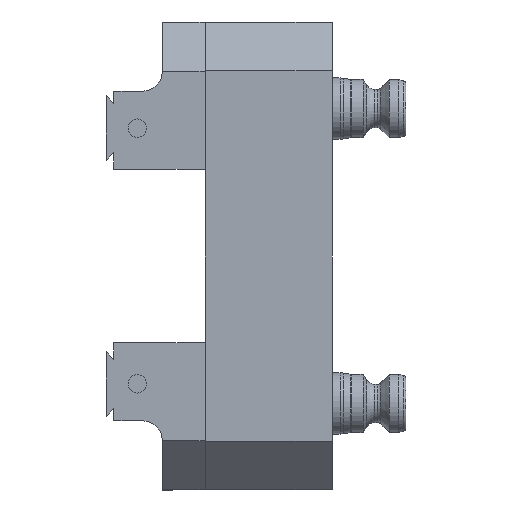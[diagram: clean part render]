
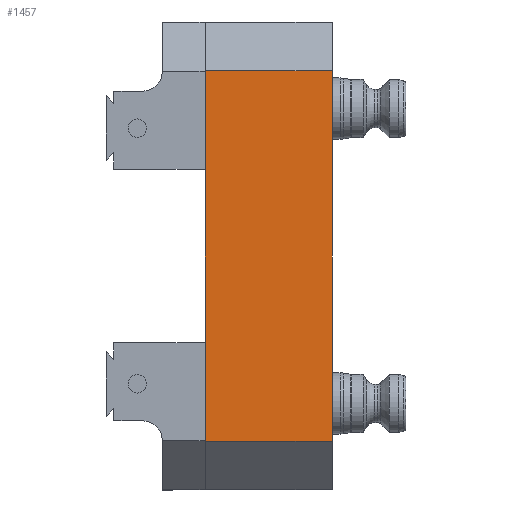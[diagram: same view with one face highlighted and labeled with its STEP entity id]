
A CAD part, left-side view. The second image highlights one B-rep face of the part: STEP entity #1457.
In plain terms, the highlighted planar face has unit normal (-1, 0, 0).
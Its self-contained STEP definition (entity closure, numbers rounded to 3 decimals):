
#5 = CARTESIAN_POINT ( 'NONE',  ( 0., 41.275, 136.525 ) ) ;
#146 = VECTOR ( 'NONE', #6791, 1000. ) ;
#396 = EDGE_LOOP ( 'NONE', ( #5119, #2944, #2298, #2718 ) ) ;
#642 = CARTESIAN_POINT ( 'NONE',  ( 0., 41.275, 15.875 ) ) ;
#684 = CARTESIAN_POINT ( 'NONE',  ( 0., 0., 152.4 ) ) ;
#814 = VERTEX_POINT ( 'NONE', #4318 ) ;
#821 = PLANE ( 'NONE',  #7048 ) ;
#846 = DIRECTION ( 'NONE',  ( 0., 0., -1. ) ) ;
#1063 = DIRECTION ( 'NONE',  ( 0., 1., 0. ) ) ;
#1179 = VERTEX_POINT ( 'NONE', #642 ) ;
#1191 = LINE ( 'NONE', #2611, #146 ) ;
#1457 = ADVANCED_FACE ( 'NONE', ( #7407 ), #821, .F. ) ;
#1510 = VERTEX_POINT ( 'NONE', #4528 ) ;
#1630 = LINE ( 'NONE', #2777, #6591 ) ;
#2204 = DIRECTION ( 'NONE',  ( 0., 0., -1. ) ) ;
#2298 = ORIENTED_EDGE ( 'NONE', *, *, #4406, .T. ) ;
#2611 = CARTESIAN_POINT ( 'NONE',  ( 0., 0., 136.525 ) ) ;
#2628 = EDGE_CURVE ( 'NONE', #814, #1510, #7293, .T. ) ;
#2718 = ORIENTED_EDGE ( 'NONE', *, *, #6660, .F. ) ;
#2777 = CARTESIAN_POINT ( 'NONE',  ( 0., 41.275, 152.4 ) ) ;
#2944 = ORIENTED_EDGE ( 'NONE', *, *, #3607, .T. ) ;
#3607 = EDGE_CURVE ( 'NONE', #814, #6079, #1191, .T. ) ;
#3872 = CARTESIAN_POINT ( 'NONE',  ( 0., 0., 152.4 ) ) ;
#4200 = DIRECTION ( 'NONE',  ( 0., 0., -1. ) ) ;
#4318 = CARTESIAN_POINT ( 'NONE',  ( 0., 0., 136.525 ) ) ;
#4406 = EDGE_CURVE ( 'NONE', #6079, #1179, #1630, .T. ) ;
#4528 = CARTESIAN_POINT ( 'NONE',  ( 0., 0., 15.875 ) ) ;
#4700 = LINE ( 'NONE', #5270, #5449 ) ;
#5011 = DIRECTION ( 'NONE',  ( 1., 0., 0. ) ) ;
#5119 = ORIENTED_EDGE ( 'NONE', *, *, #2628, .F. ) ;
#5270 = CARTESIAN_POINT ( 'NONE',  ( 0., 0., 15.875 ) ) ;
#5449 = VECTOR ( 'NONE', #1063, 1000. ) ;
#5638 = VECTOR ( 'NONE', #4200, 1000. ) ;
#6079 = VERTEX_POINT ( 'NONE', #5 ) ;
#6591 = VECTOR ( 'NONE', #2204, 1000. ) ;
#6660 = EDGE_CURVE ( 'NONE', #1510, #1179, #4700, .T. ) ;
#6791 = DIRECTION ( 'NONE',  ( 0., 1., 0. ) ) ;
#7048 = AXIS2_PLACEMENT_3D ( 'NONE', #3872, #5011, #846 ) ;
#7293 = LINE ( 'NONE', #684, #5638 ) ;
#7407 = FACE_OUTER_BOUND ( 'NONE', #396, .T. ) ;
